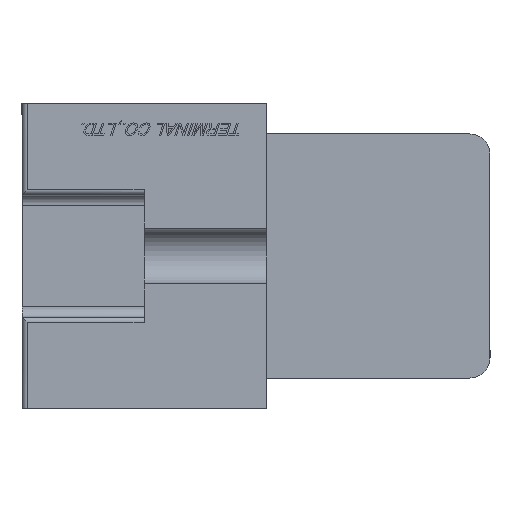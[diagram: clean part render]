
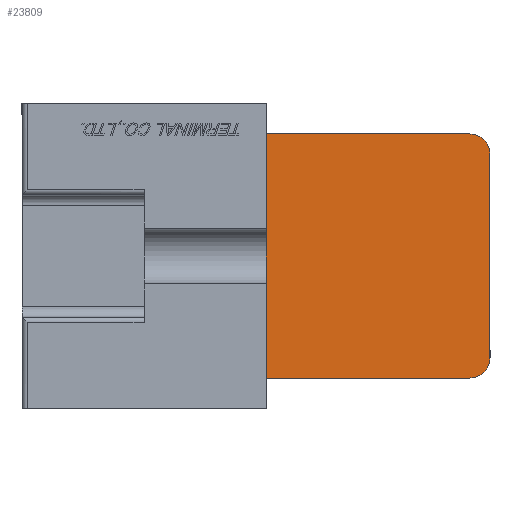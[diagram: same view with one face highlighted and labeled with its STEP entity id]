
A CAD part, left-side view. The second image highlights one B-rep face of the part: STEP entity #23809.
In plain terms, the highlighted planar face has unit normal (-1, 0, 0).
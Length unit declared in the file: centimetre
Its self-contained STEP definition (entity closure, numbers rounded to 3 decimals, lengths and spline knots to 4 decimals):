
#553=CIRCLE('',#45156,0.2);
#555=CIRCLE('',#45160,0.2);
#2828=VERTEX_POINT('',#33323);
#2829=VERTEX_POINT('',#33325);
#2840=VERTEX_POINT('',#33416);
#2841=VERTEX_POINT('',#33420);
#2886=VERTEX_POINT('',#33655);
#2887=VERTEX_POINT('',#33657);
#5468=VECTOR('',#26463,1.);
#5512=VECTOR('',#26604,1.);
#5513=VECTOR('',#26605,1.);
#5514=VECTOR('',#26606,1.);
#7233=LINE('',#33415,#5468);
#7277=LINE('',#33654,#5512);
#7278=LINE('',#33656,#5513);
#7279=LINE('',#33658,#5514);
#9099=EDGE_CURVE('',#2828,#2829,#553,.T.);
#9112=EDGE_CURVE('',#2840,#2829,#7233,.T.);
#9114=EDGE_CURVE('',#2840,#2841,#555,.T.);
#9190=EDGE_CURVE('',#2886,#2828,#7277,.T.);
#9191=EDGE_CURVE('',#2887,#2886,#7278,.T.);
#9192=EDGE_CURVE('',#2887,#2841,#7279,.T.);
#13501=ORIENTED_EDGE('',*,*,#9099,.F.);
#13502=ORIENTED_EDGE('',*,*,#9190,.F.);
#13503=ORIENTED_EDGE('',*,*,#9191,.F.);
#13504=ORIENTED_EDGE('',*,*,#9192,.T.);
#13505=ORIENTED_EDGE('',*,*,#9114,.F.);
#13506=ORIENTED_EDGE('',*,*,#9112,.T.);
#20051=EDGE_LOOP('',(#13501,#13502,#13503,#13504,#13505,#13506));
#21942=FACE_BOUND('',#20051,.T.);
#23809=ADVANCED_FACE('',(#21942),#25273,.T.);
#25273=PLANE('',#45215);
#26450=DIRECTION('',(1.,0.,0.));
#26451=DIRECTION('',(0.,-0.141,0.141));
#26463=DIRECTION('',(0.,0.,1.));
#26467=DIRECTION('',(1.,0.,0.));
#26468=DIRECTION('',(0.,-0.141,-0.141));
#26603=DIRECTION('',(-1.,0.,0.));
#26604=DIRECTION('',(0.,-1.,0.));
#26605=DIRECTION('',(0.,0.,1.));
#26606=DIRECTION('',(0.,-1.,0.));
#33323=CARTESIAN_POINT('',(-4.15,-0.695,1.2));
#33324=CARTESIAN_POINT('',(-4.15,-0.695,1.));
#33325=CARTESIAN_POINT('',(-4.15,-0.895,1.));
#33415=CARTESIAN_POINT('',(-4.15,-0.895,-1.2));
#33416=CARTESIAN_POINT('',(-4.15,-0.895,-1.));
#33419=CARTESIAN_POINT('',(-4.15,-0.695,-1.));
#33420=CARTESIAN_POINT('',(-4.15,-0.695,-1.2));
#33653=CARTESIAN_POINT('',(-4.15,1.305,0.));
#33654=CARTESIAN_POINT('',(-4.15,1.305,1.2));
#33655=CARTESIAN_POINT('',(-4.15,1.305,1.2));
#33656=CARTESIAN_POINT('',(-4.15,1.305,0.));
#33657=CARTESIAN_POINT('',(-4.15,1.305,-1.2));
#33658=CARTESIAN_POINT('',(-4.15,1.305,-1.2));
#45156=AXIS2_PLACEMENT_3D('',#33324,#26450,#26451);
#45160=AXIS2_PLACEMENT_3D('',#33419,#26467,#26468);
#45215=AXIS2_PLACEMENT_3D('',#33653,#26603,$);
